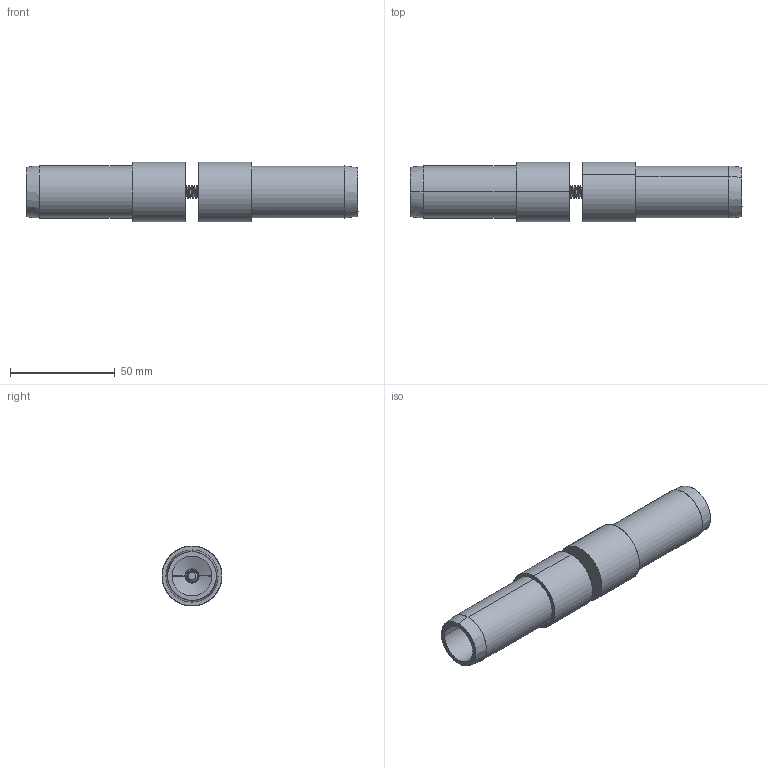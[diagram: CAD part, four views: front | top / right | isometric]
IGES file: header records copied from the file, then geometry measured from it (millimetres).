
Start section: SolidWorks IGES file using analytic representation for surfaces
Global section: file name: \\SERVER3\Design\_New Design Drive Folder List\_Design Vault\AAI\Modular Round Tube Connectors\Solidworks Models\STP Files\12202013\1.000 Inch Modular Connectors\Assemblies\1 Inch Coupler Joint Kit.IGS; native system: SolidWorks 2013; preprocessor: SolidWorks 2013; author: tbraun; date: 140110.113951; units: inch
Bounding box: 158.75 x 28.57 x 28.57 mm (x, y, z)
Surface area: 24842.3 mm2 (no closed solid volume)
Topology: 0 solids, 0 shells, 139 faces, 2249 edges, 2247 vertices
Faces by surface type: revolution 92, bspline 47
